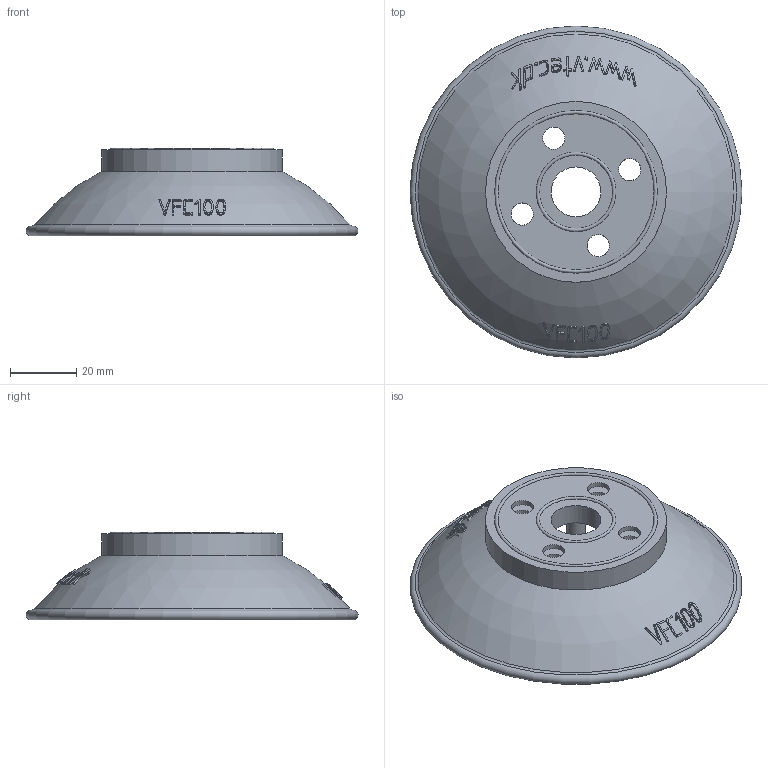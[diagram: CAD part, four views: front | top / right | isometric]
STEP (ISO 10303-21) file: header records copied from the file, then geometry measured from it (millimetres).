
FILE_DESCRIPTION( ( 'Unknown' ), '1' );
FILE_NAME( 'C:/Documents and Settings/owner/官帕 拳搁/MISUMI/PAD/VFC/VFC100-PU.stp', 'Unknown', ( 'Unknown' ), ( 'Unknown' ), 'XStep 1.0', 'Unknown', ' ' );
FILE_SCHEMA( ( 'automotive_design' ) );
Length unit declared in the file: millimetre
Products named in the file (2): Assem1; 1
Bounding box: 100 x 100 x 26.5 mm (x, y, z)
Volume: 90315.3 mm3; surface area: 56635.9 mm2
Topology: 2 solids, 2 shells, 614 faces, 1518 edges, 1018 vertices
Faces by surface type: plane 248, sphere 112, cylinder 88, extrusion 76, bspline 62, revolution 12, torus 10, cone 6
Full cylindrical faces by diameter (mm): 6.7 x16, 15 x2, 20 x2, 50 x2, 54.5 x2
Entity records: 19355 total; most frequent: CARTESIAN_POINT 10081, ORIENTED_EDGE 1420, DIRECTION 1271, EDGE_CURVE 710, AXIS2_PLACEMENT_3D 561, VERTEX_POINT 488, EDGE_LOOP 408, FACE_OUTER_BOUND 331
